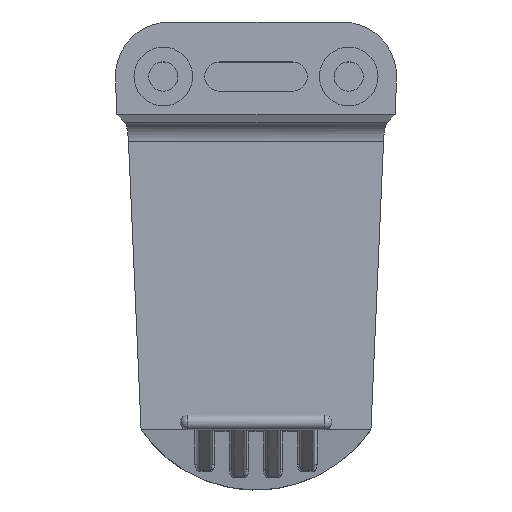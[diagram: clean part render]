
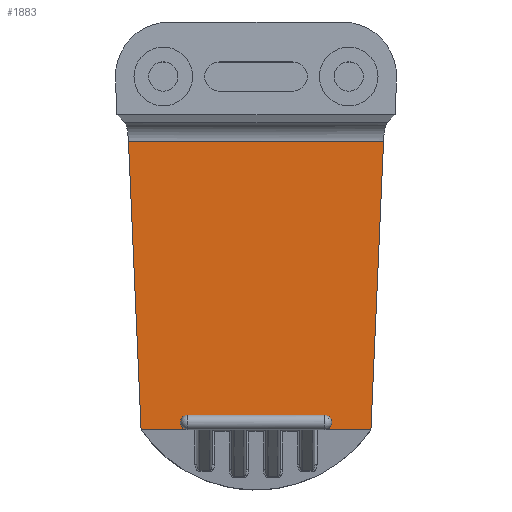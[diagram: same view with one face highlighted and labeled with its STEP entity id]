
A CAD part, top view. The second image highlights one B-rep face of the part: STEP entity #1883.
In plain terms, the highlighted planar face has unit normal (0, 0, 1).
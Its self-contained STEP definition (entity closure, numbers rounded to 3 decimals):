
#1101=CARTESIAN_POINT('',(7.,-17.17,3.));
#1102=VERTEX_POINT('',#1101);
#1164=CARTESIAN_POINT('',(-7.0,-17.17,3.));
#1165=VERTEX_POINT('',#1164);
#1172=CARTESIAN_POINT('',(-11.772,-17.17,3.));
#1173=VERTEX_POINT('',#1172);
#1174=CARTESIAN_POINT('',(-11.772,-17.17,3.));
#1175=DIRECTION('',(1.0,0.0,0.0));
#1176=VECTOR('',#1175,4.772);
#1177=LINE('',#1174,#1176);
#1178=EDGE_CURVE('',#1173,#1165,#1177,.T.);
#1180=CARTESIAN_POINT('',(11.772,-17.17,3.));
#1181=VERTEX_POINT('',#1180);
#1189=CARTESIAN_POINT('',(7.,-17.17,3.));
#1190=DIRECTION('',(1.0,0.0,0.0));
#1191=VECTOR('',#1190,4.772);
#1192=LINE('',#1189,#1191);
#1193=EDGE_CURVE('',#1102,#1181,#1192,.T.);
#1789=CARTESIAN_POINT('',(7.,-15.67,3.));
#1790=VERTEX_POINT('',#1789);
#1791=CARTESIAN_POINT('',(7.,-16.42,3.));
#1792=DIRECTION('',(0.0,0.0,-1.0));
#1793=DIRECTION('',(0.0,-1.0,0.0));
#1794=AXIS2_PLACEMENT_3D('',#1791,#1792,#1793);
#1795=CIRCLE('',#1794,0.75);
#1796=EDGE_CURVE('',#1790,#1102,#1795,.T.);
#1813=CARTESIAN_POINT('',(-7.0,-15.67,3.));
#1814=VERTEX_POINT('',#1813);
#1821=CARTESIAN_POINT('',(-7.0,-16.42,3.));
#1822=DIRECTION('',(0.0,0.0,-1.0));
#1823=DIRECTION('',(0.0,1.0,0.0));
#1824=AXIS2_PLACEMENT_3D('',#1821,#1822,#1823);
#1825=CIRCLE('',#1824,0.75);
#1826=EDGE_CURVE('',#1165,#1814,#1825,.T.);
#1839=CARTESIAN_POINT('',(-7.0,-15.67,3.));
#1840=DIRECTION('',(1.0,0.0,0.0));
#1841=VECTOR('',#1840,14.);
#1842=LINE('',#1839,#1841);
#1843=EDGE_CURVE('',#1814,#1790,#1842,.T.);
#1849=CARTESIAN_POINT('',(0.0,12.351,3.));
#1850=DIRECTION('',(0.0,0.0,-1.0));
#1851=DIRECTION('',(-1.0,0.0,0.0));
#1852=AXIS2_PLACEMENT_3D('',#1849,#1850,#1851);
#1853=PLANE('',#1852);
#1854=ORIENTED_EDGE('',*,*,#1826,.T.);
#1855=ORIENTED_EDGE('',*,*,#1843,.T.);
#1856=ORIENTED_EDGE('',*,*,#1796,.T.);
#1857=ORIENTED_EDGE('',*,*,#1193,.T.);
#1858=CARTESIAN_POINT('',(13.064,12.351,3.));
#1859=VERTEX_POINT('',#1858);
#1860=CARTESIAN_POINT('',(13.064,12.351,3.));
#1861=DIRECTION('',(-0.044,-0.999,0.));
#1862=VECTOR('',#1861,29.549);
#1863=LINE('',#1860,#1862);
#1864=EDGE_CURVE('',#1859,#1181,#1863,.T.);
#1865=ORIENTED_EDGE('',*,*,#1864,.F.);
#1866=CARTESIAN_POINT('',(-13.064,12.351,3.));
#1867=VERTEX_POINT('',#1866);
#1868=CARTESIAN_POINT('',(-13.064,12.351,3.));
#1869=DIRECTION('',(1.0,0.0,0.0));
#1870=VECTOR('',#1869,26.127);
#1871=LINE('',#1868,#1870);
#1872=EDGE_CURVE('',#1867,#1859,#1871,.T.);
#1873=ORIENTED_EDGE('',*,*,#1872,.F.);
#1874=CARTESIAN_POINT('',(-11.772,-17.17,3.));
#1875=DIRECTION('',(-0.044,0.999,0.));
#1876=VECTOR('',#1875,29.549);
#1877=LINE('',#1874,#1876);
#1878=EDGE_CURVE('',#1173,#1867,#1877,.T.);
#1879=ORIENTED_EDGE('',*,*,#1878,.F.);
#1880=ORIENTED_EDGE('',*,*,#1178,.T.);
#1881=EDGE_LOOP('',(#1854,#1855,#1856,#1857,#1865,#1873,#1879,#1880));
#1882=FACE_OUTER_BOUND('',#1881,.T.);
#1883=ADVANCED_FACE('',(#1882),#1853,.F.);
